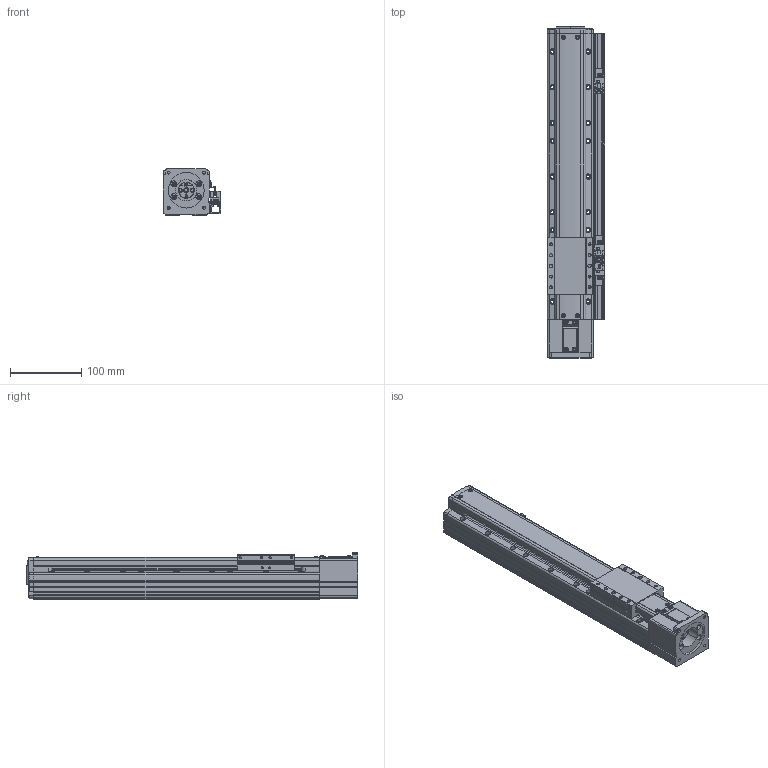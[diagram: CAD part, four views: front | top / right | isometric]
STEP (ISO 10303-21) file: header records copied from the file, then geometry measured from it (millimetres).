
FILE_DESCRIPTION(('STEP AP214'),'1');
FILE_NAME('Z:/Web/3D/PSA65/STP/PSA65-250 (3D)/PSA65ㅁㅁ-250S+3SR.stp','2014-06-25T03:38:11',(' '),(' '),'Spatial InterOp 3D',' ',' ');
FILE_SCHEMA(('automotive_design'));
Length unit declared in the file: millimetre
Products named in the file (98): SLIDE; RRCV-PA060; 1; 2; 3; 4; 5; 6; 7; 8; 9; 10; 11; 12; 13; 14; 15; 16; 17; 18; 19; 20; 21; 22; 23; 24; 25; 26; 27; 28; 29; 30; 31; 스크루 : Round - M3.0 x 8.0; RN8 x 0.75; SHAFT-SAN65; BASE; 스크루 : Round - M3.0 x 6.0; MTHZ - PSA65-60A; CPLCV-SAN45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
Bounding box: 81 x 464.8 x 65 mm (x, y, z)
Volume: 1482675.2 mm3; surface area: 279707 mm2
Topology: 98 solids, 98 shells, 2865 faces, 7553 edges, 4867 vertices
Faces by surface type: plane 1571, cylinder 860, cone 341, sphere 50, bspline 23, torus 20
Entity records: 114852 total; most frequent: CARTESIAN_POINT 18023, DIRECTION 15553, ORIENTED_EDGE 14862, EDGE_CURVE 7431, AXIS2_PLACEMENT_3D 5375, VERTEX_POINT 4867, LINE 4803, VECTOR 4803
